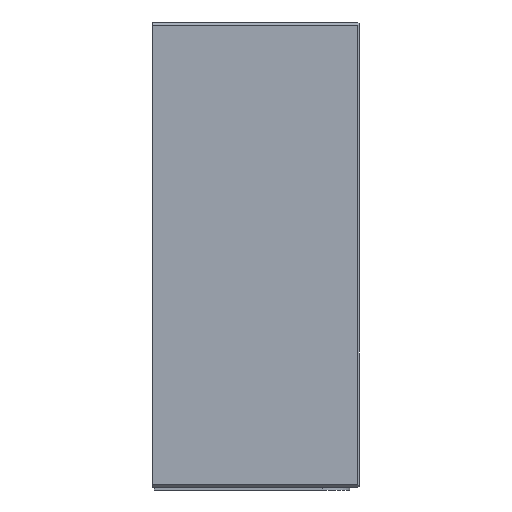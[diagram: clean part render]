
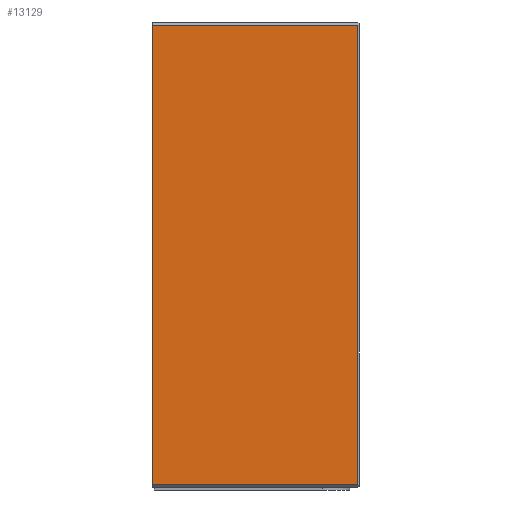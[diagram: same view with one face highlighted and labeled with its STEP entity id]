
A CAD part, left-side view. The second image highlights one B-rep face of the part: STEP entity #13129.
In plain terms, the highlighted planar face has unit normal (-1, 0, 0).
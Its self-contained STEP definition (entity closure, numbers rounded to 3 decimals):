
#571=LINE('',#19300,#1621);
#615=LINE('',#20205,#1665);
#616=LINE('',#20207,#1666);
#617=LINE('',#20209,#1667);
#1621=VECTOR('',#15327,1000.);
#1665=VECTOR('',#15421,1000.);
#1666=VECTOR('',#15422,1000.);
#1667=VECTOR('',#15423,1000.);
#2605=PLANE('',#14182);
#3950=ORIENTED_EDGE('',*,*,#7739,.T.);
#3951=ORIENTED_EDGE('',*,*,#7558,.F.);
#3952=ORIENTED_EDGE('',*,*,#7740,.T.);
#3953=ORIENTED_EDGE('',*,*,#7741,.T.);
#7558=EDGE_CURVE('',#9488,#9489,#571,.F.);
#7739=EDGE_CURVE('',#9655,#9489,#615,.T.);
#7740=EDGE_CURVE('',#9488,#9656,#616,.T.);
#7741=EDGE_CURVE('',#9656,#9655,#617,.T.);
#9488=VERTEX_POINT('',#19299);
#9489=VERTEX_POINT('',#19301);
#9655=VERTEX_POINT('',#20206);
#9656=VERTEX_POINT('',#20208);
#11341=EDGE_LOOP('',(#3950,#3951,#3952,#3953));
#12256=FACE_BOUND('',#11341,.T.);
#13129=ADVANCED_FACE('',(#12256),#2605,.F.);
#14182=AXIS2_PLACEMENT_3D('',#20204,#15419,#15420);
#15327=DIRECTION('',(0.,0.,-1.));
#15419=DIRECTION('',(1.,0.,0.));
#15420=DIRECTION('',(0.,1.,0.));
#15421=DIRECTION('',(0.,1.,0.));
#15422=DIRECTION('',(0.,-1.,0.));
#15423=DIRECTION('',(0.,0.,1.));
#19299=CARTESIAN_POINT('',(-375.,-58.,10.));
#19300=CARTESIAN_POINT('',(-375.,-58.,849.));
#19301=CARTESIAN_POINT('',(-375.,-58.,843.));
#20204=CARTESIAN_POINT('',(-375.,-58.,849.));
#20205=CARTESIAN_POINT('',(-375.,-58.,843.));
#20206=CARTESIAN_POINT('',(-375.,-430.,843.));
#20207=CARTESIAN_POINT('',(-375.,-58.,10.));
#20208=CARTESIAN_POINT('',(-375.,-430.,10.));
#20209=CARTESIAN_POINT('',(-375.,-430.,849.));
